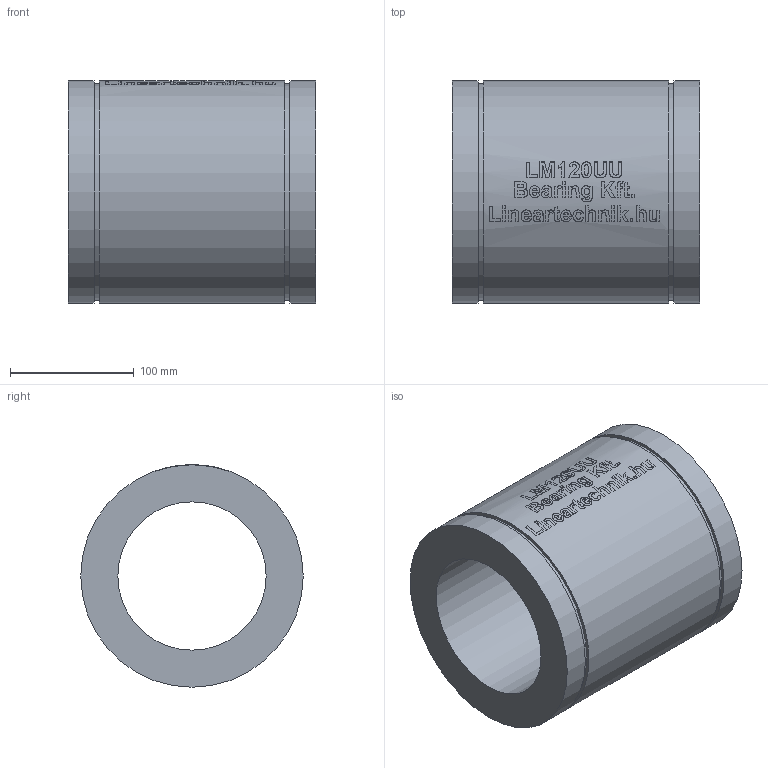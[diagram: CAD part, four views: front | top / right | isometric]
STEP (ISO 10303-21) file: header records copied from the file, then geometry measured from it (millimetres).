
FILE_DESCRIPTION(/* description */ ('Huosing for flange nuts'),/* implementation_level */ '2;1');
FILE_NAME(/* name */ 'LM120UU',/* time_stamp */ '2019-05-07T14:07:33+02:00',/* author */ ('VĂ©gh MĂˇtĂ©'),/* organization */ ('Bearing Kft'),/* preprocessor_version */ 'ST-DEVELOPER v16.7',/* originating_system */ 'DEX',/* authorisation */ $);
FILE_SCHEMA (('AUTOMOTIVE_DESIGN {1 0 10303 214 3 1 1}'));
Length unit declared in the file: millimetre
Products named in the file (1): LM120UU
Bounding box: 200 x 180 x 180 mm (x, y, z)
Volume: 2815661 mm3; surface area: 222376.4 mm2
Topology: 1 solids, 1 shells, 306 faces, 764 edges, 510 vertices
Faces by surface type: plane 159, bspline 95, cylinder 52
Full cylindrical faces by diameter (mm): 120 x1, 175 x2, 180 x3
Entity records: 28166 total; most frequent: CARTESIAN_POINT 21366, ORIENTED_EDGE 1506, DIRECTION 1128, EDGE_CURVE 753, VERTEX_POINT 508, LINE 416, VECTOR 416, EDGE_LOOP 367
